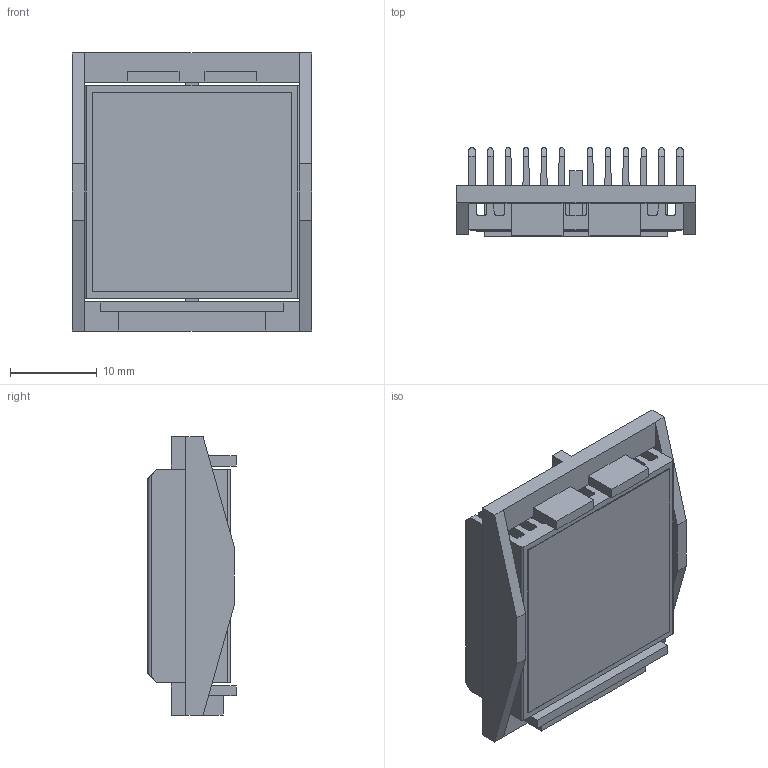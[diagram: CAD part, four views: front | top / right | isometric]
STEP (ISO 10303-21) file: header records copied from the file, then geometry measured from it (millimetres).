
FILE_DESCRIPTION (( 'STEP AP214' ), '1' );
FILE_NAME ('INL25001-10-1.7O.STEP', '2023-02-21T19:30:12', ( '' ), ( '' ), 'SwSTEP 2.0', 'SolidWorks 2020', '' );
FILE_SCHEMA (( 'AUTOMOTIVE_DESIGN' ));
Length unit declared in the file: millimetre
Products named in the file (1): INL25001-10-1.7O
Bounding box: 27.7 x 10.2 x 32.1 mm (x, y, z)
Volume: 3810.7 mm3; surface area: 8699.8 mm2
Topology: 3 solids, 3 shells, 152 faces, 440 edges, 292 vertices
Faces by surface type: plane 116, cylinder 36
Entity records: 6668 total; most frequent: CARTESIAN_POINT 957, ORIENTED_EDGE 880, DIRECTION 770, EDGE_CURVE 440, VECTOR 368, LINE 368, VERTEX_POINT 292, AXIS2_PLACEMENT_3D 201
